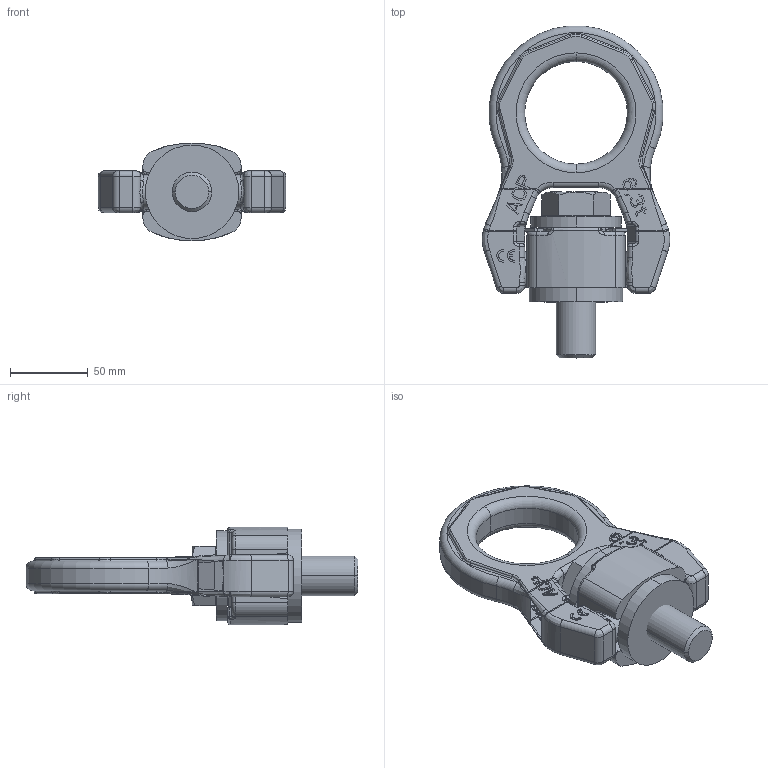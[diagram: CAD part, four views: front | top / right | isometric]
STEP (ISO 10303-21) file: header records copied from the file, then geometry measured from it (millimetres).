
FILE_DESCRIPTION((''),'2;1');
FILE_NAME('001-M35746-P-1_ASM','2018-09-25T',('Anja.Joas'),(''),'PRO/ENGINEER BY PARAMETRIC TECHNOLOGY CORPORATION, 2011490','PRO/ENGINEER BY PARAMETRIC TECHNOLOGY CORPORATION, 2011490','');
FILE_SCHEMA(('CONFIG_CONTROL_DESIGN'));
Length unit declared in the file: millimetre
Products named in the file (5): 001-M35675-P-30; 001-M35801-P-10; 001-M35761-P-50; 001-M35834-P-3; 001-M35746-P-1_ASM
Assembly tree (4 placements, depth 2):
  001-M35746-P-1_ASM
    001-M35675-P-30
    001-M35801-P-10
    001-M35761-P-50
    001-M35834-P-3
Bounding box: 120.46 x 213.29 x 62.81 mm (x, y, z)
Volume: 429256.2 mm3; surface area: 88119.7 mm2
Topology: 5 solids, 5 shells, 983 faces, 2598 edges, 1654 vertices
Faces by surface type: plane 615, cylinder 185, bspline 98, torus 76, cone 8, extrusion 1
Entity records: 35323 total; most frequent: CARTESIAN_POINT 11343, ORIENTED_EDGE 5196, DIRECTION 4653, EDGE_CURVE 2598, VECTOR 1869, LINE 1868, VERTEX_POINT 1654, AXIS2_PLACEMENT_3D 1392
